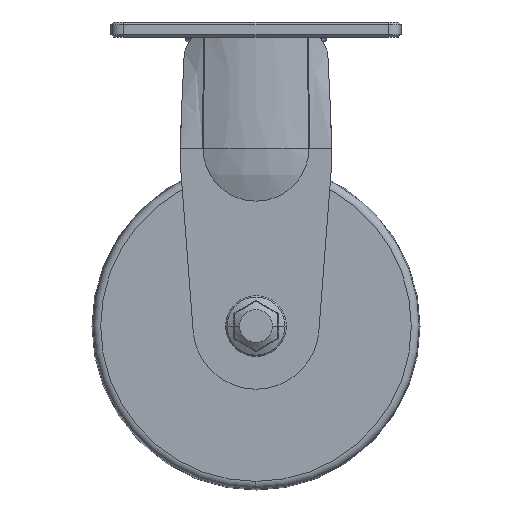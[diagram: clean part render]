
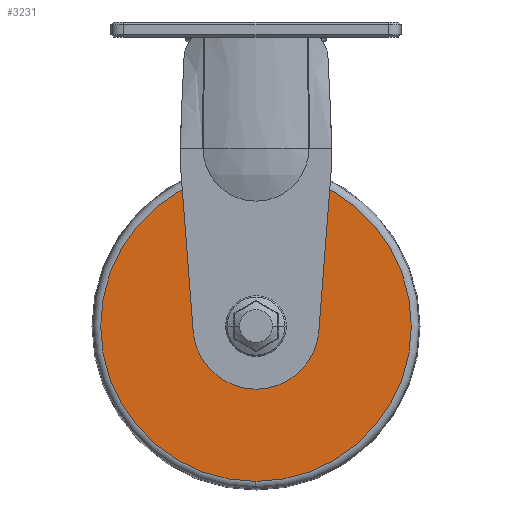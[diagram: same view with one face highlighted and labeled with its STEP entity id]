
A CAD part, front view. The second image highlights one B-rep face of the part: STEP entity #3231.
In plain terms, the highlighted planar face has unit normal (0, -1, 0).
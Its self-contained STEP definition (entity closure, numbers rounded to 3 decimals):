
#383=CARTESIAN_POINT('',(-93.865,-157.785,-72.944));
#384=VERTEX_POINT('',#383);
#393=CARTESIAN_POINT('',(-93.865,-157.785,-196.056));
#394=VERTEX_POINT('',#393);
#402=CARTESIAN_POINT('',(-93.865,-157.785,-134.5));
#403=DIRECTION('',(0.0,1.0,0.0));
#404=DIRECTION('',(0.0,0.0,1.0));
#405=AXIS2_PLACEMENT_3D('',#402,#403,#404);
#406=CIRCLE('',#405,61.556);
#407=EDGE_CURVE('',#394,#384,#406,.T.);
#451=CARTESIAN_POINT('',(-93.865,-157.785,-124.5));
#452=VERTEX_POINT('',#451);
#461=CARTESIAN_POINT('',(-93.865,-157.785,-144.5));
#462=VERTEX_POINT('',#461);
#463=CARTESIAN_POINT('',(-93.865,-157.785,-134.5));
#464=DIRECTION('',(0.0,1.0,0.0));
#465=DIRECTION('',(0.0,0.0,1.0));
#466=AXIS2_PLACEMENT_3D('',#463,#464,#465);
#467=CIRCLE('',#466,10.);
#468=EDGE_CURVE('',#462,#452,#467,.T.);
#3164=CARTESIAN_POINT('',(-93.865,-157.785,-134.5));
#3165=DIRECTION('',(0.0,1.0,0.0));
#3166=DIRECTION('',(0.0,0.0,1.0));
#3167=AXIS2_PLACEMENT_3D('',#3164,#3165,#3166);
#3168=CIRCLE('',#3167,10.);
#3169=EDGE_CURVE('',#452,#462,#3168,.T.);
#3212=CARTESIAN_POINT('',(-93.865,-157.785,-98.722));
#3213=DIRECTION('',(0.0,-1.0,0.0));
#3214=DIRECTION('',(0.0,0.0,-1.0));
#3215=AXIS2_PLACEMENT_3D('',#3212,#3213,#3214);
#3216=PLANE('',#3215);
#3217=CARTESIAN_POINT('',(-93.865,-157.785,-134.5));
#3218=DIRECTION('',(0.0,1.0,0.0));
#3219=DIRECTION('',(0.0,0.0,1.0));
#3220=AXIS2_PLACEMENT_3D('',#3217,#3218,#3219);
#3221=CIRCLE('',#3220,61.556);
#3222=EDGE_CURVE('',#384,#394,#3221,.T.);
#3223=ORIENTED_EDGE('',*,*,#3222,.F.);
#3224=ORIENTED_EDGE('',*,*,#407,.F.);
#3225=EDGE_LOOP('',(#3223,#3224));
#3226=FACE_OUTER_BOUND('',#3225,.T.);
#3227=ORIENTED_EDGE('',*,*,#3169,.T.);
#3228=ORIENTED_EDGE('',*,*,#468,.T.);
#3229=EDGE_LOOP('',(#3227,#3228));
#3230=FACE_BOUND('',#3229,.T.);
#3231=ADVANCED_FACE('',(#3226,#3230),#3216,.T.);
